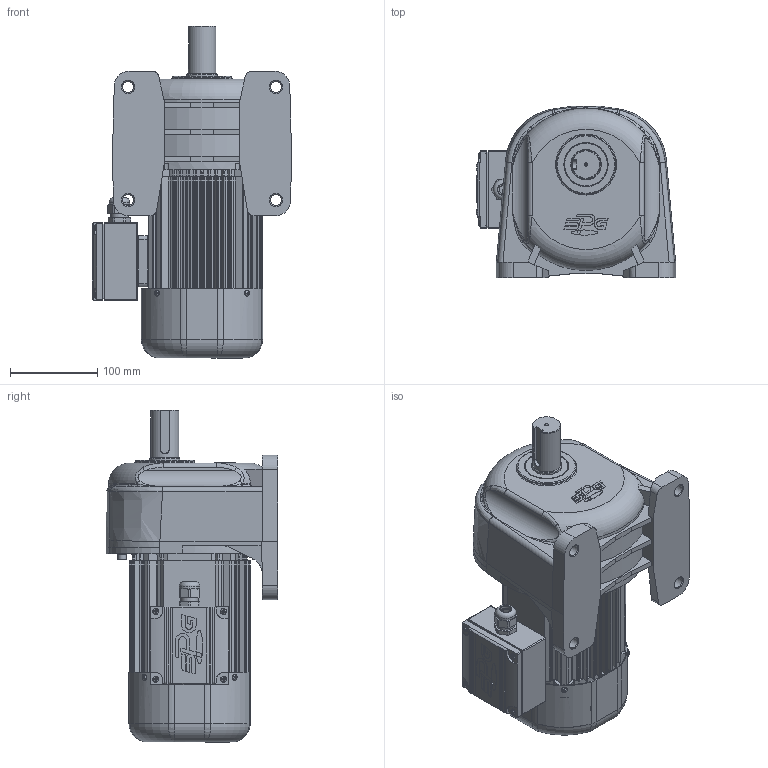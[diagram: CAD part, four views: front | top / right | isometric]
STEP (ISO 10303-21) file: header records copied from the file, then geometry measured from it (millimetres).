
FILE_DESCRIPTION(/* description */ (''),/* implementation_level */ '2;1');
FILE_NAME(/* name */ 'Z:\동력 3D 파일\PAL32-(100~200)-MC(D)040[ ]L_(3D).stp',/* time_stamp */ '2021-10-18T16:54:11+09:00',/* author */ ('jaebok'),/* organization */ (''),/* preprocessor_version */ 'ST-DEVELOPER v18.1',/* originating_system */ 'Autodesk Inventor 2022',/* authorisation */ '');
FILE_SCHEMA (('AUTOMOTIVE_DESIGN { 1 0 10303 214 3 1 1 }'));
Products named in the file (1): 부품7
Bounding box: 229 x 197.49 x 381.5 mm (x, y, z)
Volume: 2801805.8 mm3; surface area: 686107 mm2
Topology: 2 solids, 25 shells, 1974 faces, 5139 edges, 3270 vertices
Faces by surface type: plane 1016, cylinder 701, cone 140, bspline 50, torus 47, sphere 20
Full cylindrical faces by diameter (mm): 1.5 x2, 2 x5, 3 x8, 3.242 x5, 3.25 x1, 3.3 x4, 3.6 x4, 3.8 x3, 4 x25, 4.2 x8, 4.917 x4, 5 x23, 5.8 x2, 5.9 x3, 6 x18, 6.4 x1, 6.5 x6, 6.8 x4, 7 x12, 7.9 x6, 8 x3, 8.5 x1, 8.7 x1, 9.5 x4, 10 x5, 12.5 x1, 13 x4, 15 x1, 18 x1, 20 x2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
Entity records: 69348 total; most frequent: CARTESIAN_POINT 18680, DIRECTION 10519, ORIENTED_EDGE 10180, EDGE_CURVE 5090, AXIS2_PLACEMENT_3D 4010, VERTEX_POINT 3263, LINE 2499, VECTOR 2499
